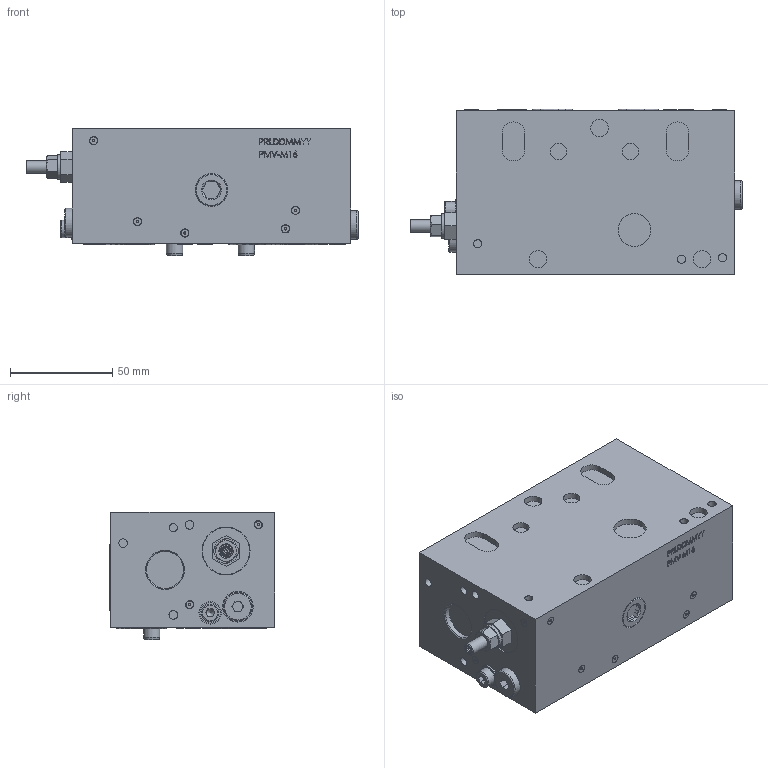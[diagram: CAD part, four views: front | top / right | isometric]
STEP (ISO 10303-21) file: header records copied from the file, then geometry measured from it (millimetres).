
FILE_DESCRIPTION (( 'STEP AP214' ), '1' );
FILE_NAME ('0303306.STEP', '2022-06-22T13:59:41', ( '' ), ( '' ), 'SwSTEP 2.0', 'SolidWorks 2020', '' );
FILE_SCHEMA (( 'AUTOMOTIVE_DESIGN' ));
Length unit declared in the file: millimetre
Products named in the file (20): 0303308^0287024_006; 0072126_221.5560; 0285276_003; 0283782_001; 0285376_004; 0072022_238.1405; 0284648_002; 0073842_153.2301; 0303306; 0074697_246.2308; 0073837_049.2050; 0290158_001; 0079915_005; 0290158_005; 0290881_001; 0290158_003; 0081170_005; 0290158_002; 0074669_079.3140; 0290158_007
Assembly tree (41 placements, depth 2):
  0303306
    0284648_002
    0285276_003
    0285376_004
    0283782_001  x8
    0072022_238.1405  x2
    0073842_153.2301
    0073837_049.2050
    0074697_246.2308
    0081170_005  x2
    0079915_005
    0074669_079.3140
    0290158_001  x9
    0290158_002  x2
    0290158_003  x2
    0290158_005
    0290158_007  x2
    0303308^0287024_006  x2
    0290881_001
    0072126_221.5560  x2
Bounding box: 162 x 80.73 x 62 mm (x, y, z)
Volume: 617011 mm3; surface area: 68302.1 mm2
Topology: 52 solids, 53 shells, 1054 faces, 2169 edges, 1359 vertices
Faces by surface type: plane 507, cone 220, cylinder 215, bspline 104, torus 8
Full cylindrical faces by diameter (mm): 0.6 x9, 0.8 x2, 1.1 x8, 1.78 x6, 2 x2, 2.4 x1, 3.5 x8, 3.767 x8, 4 x26, 4.2 x7, 4.47 x9, 5 x9, 5.7 x1, 6 x1, 6.8 x4, 7.65 x2, 7.8 x9, 7.85 x2, 8 x6, 8.03 x9, 8.1 x1, 8.3 x2, 8.4 x2, 8.5 x7, 8.8 x2, 9.7 x2, 10 x1, 10.2 x1, 10.95 x2, 11 x1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
Entity records: 21397 total; most frequent: CARTESIAN_POINT 6167, DIRECTION 2875, ORIENTED_EDGE 2484, EDGE_CURVE 1242, AXIS2_PLACEMENT_3D 1081, EDGE_LOOP 1047, VERTEX_POINT 929, FACE_OUTER_BOUND 844
